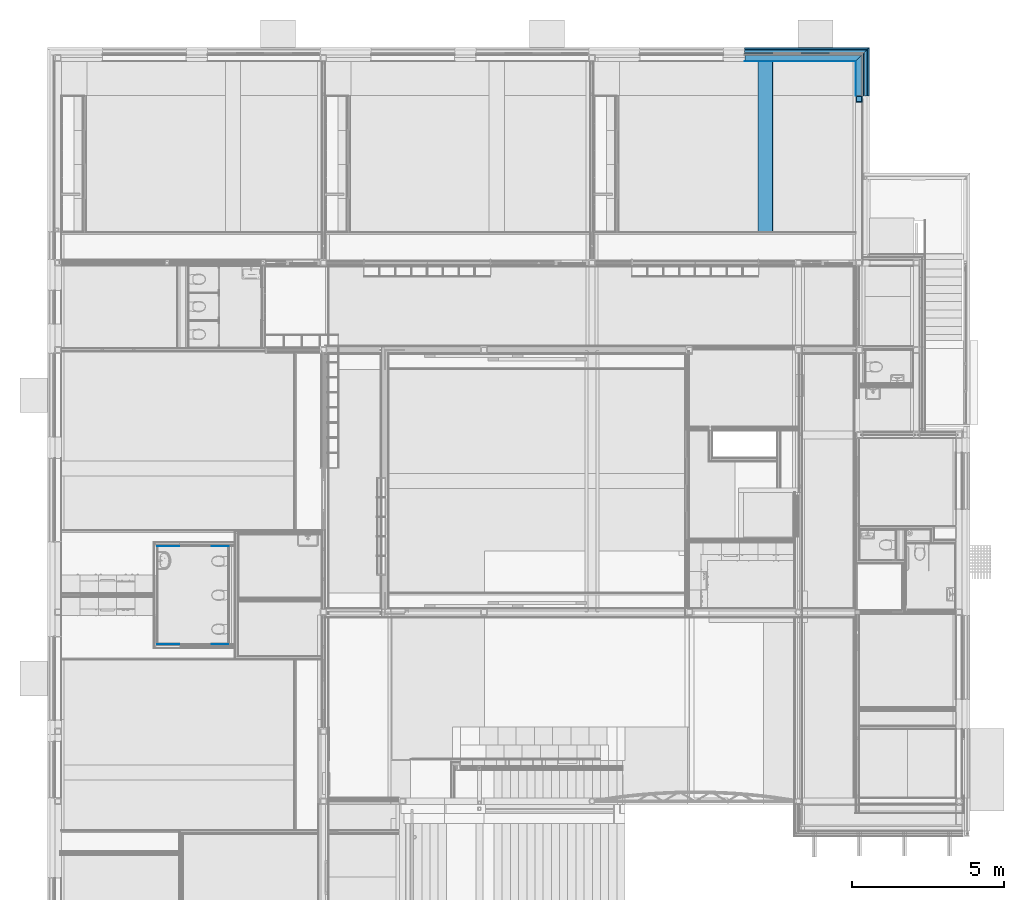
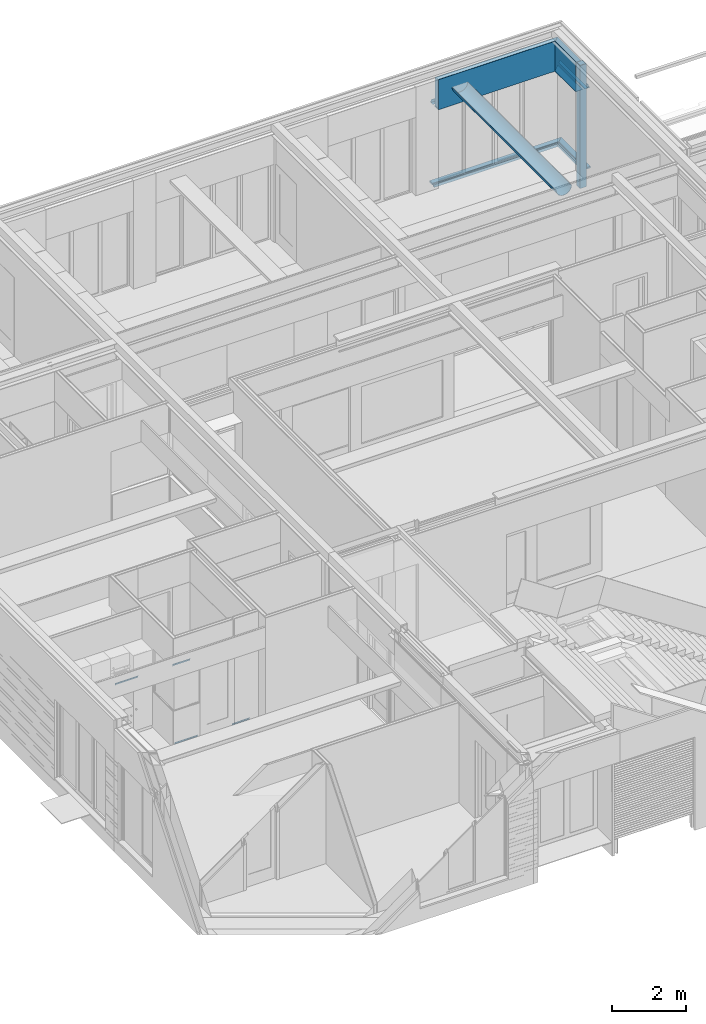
# One storey, part 98 of 165: 21 building element parts, 12 elements without a shape of their own.
"""IFC2X3 building model written with IfcOpenShell, lengths in millimetres."""

from ifc_helpers import new_model, entity, si_unit, converted_unit, derived_unit, money_unit, direction, frame, origin_with_axes, place, context, subcontext, project, spatial, faceted_brep, material, type_object, element, aggregate, save


model = new_model("IFC2X3")

# Units and contexts
model_context = context("Model", 3, precision=0.01, world=origin_with_axes(), true_north=direction((0.0, 1.0)))
body_context = subcontext(model_context, "Body", "Model", "MODEL_VIEW")
ifc_project = project(units=[si_unit("LENGTHUNIT", "METRE", prefix="MILLI"), si_unit("AREAUNIT", "SQUARE_METRE"), si_unit("VOLUMEUNIT", "CUBIC_METRE"), converted_unit("PLANEANGLEUNIT", "DEGREE", entity("IfcPlaneAngleMeasure", 0.0174532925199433), si_unit("PLANEANGLEUNIT", "RADIAN"), dimensions=[0, 0, 0, 0, 0, 0, 0]), money_unit("EUR"), converted_unit("TIMEUNIT", "Year", entity("IfcTimeMeasure", 31556926.0), si_unit("TIMEUNIT", "SECOND"), dimensions=[0, 0, 1, 0, 0, 0, 0]), si_unit("MASSUNIT", "GRAM", prefix="KILO"), si_unit("THERMODYNAMICTEMPERATUREUNIT", "DEGREE_CELSIUS"), si_unit("LUMINOUSINTENSITYUNIT", "LUMEN"), si_unit("ENERGYUNIT", "JOULE", prefix="MEGA"), derived_unit("THERMALCONDUCTANCEUNIT", [(si_unit("POWERUNIT", "WATT"), 1), (si_unit("LENGTHUNIT", "METRE"), -1), (si_unit("THERMODYNAMICTEMPERATUREUNIT", "KELVIN"), -1)]), derived_unit("SPECIFICHEATCAPACITYUNIT", [(si_unit("ENERGYUNIT", "JOULE"), 1), (si_unit("MASSUNIT", "GRAM", prefix="KILO"), -1), (si_unit("THERMODYNAMICTEMPERATUREUNIT", "KELVIN"), -1)]), derived_unit("MASSDENSITYUNIT", [(si_unit("MASSUNIT", "GRAM", prefix="KILO"), 1), (si_unit("VOLUMEUNIT", "CUBIC_METRE"), -1)])], contexts=[model_context])

# Site, building, storey
site_placement = place(None, origin_with_axes())
site = spatial("IfcSite", under=ifc_project, at=site_placement, Name="Site", CompositionType="ELEMENT")
building_placement = place(site_placement, origin_with_axes())
building = spatial("IfcBuilding", under=site, at=building_placement, Name="Naam gebouw", CompositionType="ELEMENT")
storey_placement = place(building_placement, origin_with_axes())
storey = spatial("IfcBuildingStorey", under=building, at=storey_placement, Name="Begane grond", CompositionType="ELEMENT", Elevation=0.0)

# Column, building element parts
column_type = type_object("IfcColumnType", Name="200X200X10 200 x 200", PredefinedType="COLUMN")
column_placement = place(storey_placement, frame((26500.00000195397, 27715.0, -480.0), z_axis=(0.0, 0.0, 1.0), x_axis=(1.0, 0.0, 0.0)))
column = element("IfcColumn", 1, at=column_placement, inside=storey, type_object=column_type, Name="28_Kolom-x", ObjectType="COLUMN")
ifc_material_1 = material(Name="Beton gewapend C")
building_element_part_1_placement = place(column_placement, origin_with_axes())
building_element_part_1 = element("IfcBuildingElementPart", 2, at=building_element_part_1_placement, material=ifc_material_1, Name="Beton gewapend C", context=body_context, shape_type="Brep", body=[
    faceted_brep([(-89.99999999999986, 89.99999999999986, 4063.0), (89.99999999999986, 89.99999999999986, 4063.0), (89.99999999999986, 89.99999999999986, 0.0), (-89.99999999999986, 89.99999999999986, 0.0), (89.99999999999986, -89.99999999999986, 4063.0), (-89.99999999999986, -89.99999999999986, 4063.0), (89.99999999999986, -89.99999999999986, 0.0), (-89.99999999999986, -89.99999999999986, 0.0)], [[[0, 1, 2, 3]], [[4, 1, 0, 5]], [[1, 4, 6, 2]], [[2, 6, 7, 3]], [[5, 0, 3, 7]], [[4, 5, 7, 6]]]),
    faceted_brep([(89.99999999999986, -89.99999999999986, 4074.999999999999), (89.99999999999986, 89.99999999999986, 4074.999999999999), (89.99999999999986, 89.99999999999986, 4079.999999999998), (89.99999999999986, -89.99999999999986, 4079.999999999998), (-89.99999999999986, 89.99999999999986, 4074.999999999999), (-89.99999999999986, -89.99999999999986, 4074.999999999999), (-89.99999999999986, 89.99999999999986, 4079.999999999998), (-89.99999999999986, -89.99999999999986, 4079.999999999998)], [[[0, 1, 2, 3]], [[4, 1, 0, 5]], [[1, 4, 6, 2]], [[2, 6, 7, 3]], [[5, 0, 3, 7]], [[4, 5, 7, 6]]]),
])
ifc_material_2 = material(Name="Metaal - Staal C")
building_element_part_2_placement = place(column_placement, origin_with_axes())
building_element_part_2 = element("IfcBuildingElementPart", 3, at=building_element_part_2_placement, material=ifc_material_2, Name="Metaal - Staal C", context=body_context, shape_type="Brep", body=[
    faceted_brep([(-100.0000000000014, -100.0000000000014, 0.0), (100.0000000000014, -100.0000000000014, 0.0), (100.0000000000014, -100.0000000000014, 4079.999999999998), (-100.0000000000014, -100.0000000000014, 4079.999999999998), (-100.0000000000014, 100.0000000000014, 0.0), (100.0000000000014, 100.0000000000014, 0.0), (-89.99999999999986, -89.99999999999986, 0.0), (89.99999999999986, -89.99999999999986, 0.0), (89.99999999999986, 89.99999999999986, 0.0), (-89.99999999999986, 89.99999999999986, 0.0), (100.0000000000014, 100.0000000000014, 4079.999999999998), (-100.0000000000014, 100.0000000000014, 4079.999999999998), (-89.99999999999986, -89.99999999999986, 4079.999999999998), (-89.99999999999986, 89.99999999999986, 4079.999999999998), (89.99999999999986, 89.99999999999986, 4079.999999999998), (89.99999999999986, -89.99999999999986, 4079.999999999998)], [[[0, 1, 2, 3]], [[0, 4, 5, 1], [6, 7, 8, 9]], [[1, 5, 10, 2]], [[3, 2, 10, 11], [12, 13, 14, 15]], [[4, 0, 3, 11]], [[5, 4, 11, 10]], [[7, 6, 12, 15]], [[8, 7, 15, 14]], [[9, 8, 14, 13]], [[6, 9, 13, 12]]]),
])
aggregate(column, [building_element_part_1, building_element_part_2])

# Beam, building element parts
beam_type_1 = type_object("IfcBeamType", Name="41 Latei/geveldrager 158 x 112", PredefinedType="BEAM")
beam_1_placement = place(storey_placement, frame((26780.00000000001, 29355.0, 2610.0), z_axis=(0.0, 0.0, 1.0), x_axis=(-1.0, 0.0, 0.0)))
beam_1 = element("IfcBeam", 4, at=beam_1_placement, inside=storey, type_object=beam_type_1, Name="_Regenwaterafvoer-x", ObjectType="BEAM")
building_element_part_3_placement = place(beam_1_placement, origin_with_axes())
building_element_part_3 = element("IfcBuildingElementPart", 5, at=building_element_part_3_placement, material=ifc_material_2, Name="Metaal - Staal C", context=body_context, shape_type="Brep", body=[
    faceted_brep([(-50.00000000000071, 1534.000000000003, 6.55651533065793e-07), (-50.00000000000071, 1534.000000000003, -3.000000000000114), (-50.00000000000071, -49.99999999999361, -3.000000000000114), (-50.00000000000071, -49.99999999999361, 6.55651533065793e-07), (-5.9603877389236e-08, 1534.000000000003, 6.55651533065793e-07), (-5.9603877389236e-08, 1534.000000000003, 99.3417707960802), (16.54654975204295, 1534.000000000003, 108.894926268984), (18.04655007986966, 1534.000000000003, 106.296849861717), (3.000000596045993, 1534.000000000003, 96.99999988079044), (3.000000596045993, 1534.000000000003, 6.55651533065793e-07), (3.000000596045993, 1534.000000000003, -3.000000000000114), (3.000000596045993, 3.000000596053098, -3.000000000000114), (3.000000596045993, 3.000000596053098, 6.55651533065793e-07), (3.000000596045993, 3.000000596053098, 96.99999988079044), (18.04655007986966, 18.04655007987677, 106.296849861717), (16.54654975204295, 16.54654975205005, 108.894926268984), (-5.9603877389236e-08, -5.96003246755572e-08, 99.3417707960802), (-5.9603877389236e-08, -5.96003246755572e-08, 6.55651533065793e-07)], [[[0, 1, 2, 3]], [[0, 4, 5, 6, 7, 8, 9, 10, 1]], [[1, 10, 11, 2]], [[3, 2, 11, 12, 13, 14, 15, 16, 17]], [[4, 0, 3, 17]], [[5, 4, 17, 16]], [[6, 5, 16, 15]], [[7, 6, 15, 14]], [[8, 7, 14, 13]], [[9, 8, 13, 12]], [[10, 9, 12, 11]]]),
])
building_element_part_4_placement = place(beam_1_placement, origin_with_axes())
building_element_part_4 = element("IfcBuildingElementPart", 6, at=building_element_part_4_placement, material=ifc_material_2, Name="Metaal - Staal C", context=body_context, shape_type="Brep", body=[
    faceted_brep([(3.000000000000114, 1534.000000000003, -3.000000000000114), (108.0000000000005, 1534.000000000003, -3.000000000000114), (108.0000000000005, 108.0000000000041, -3.000000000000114), (3.000000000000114, 3.000000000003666, -3.000000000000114), (3.000000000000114, 1534.000000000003, 0.0), (108.0000000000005, 1534.000000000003, 0.0), (108.0000000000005, 108.0000000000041, 0.0), (3.000000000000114, 3.000000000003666, 0.0)], [[[0, 1, 2, 3]], [[0, 4, 5, 1]], [[1, 5, 6, 2]], [[3, 2, 6, 7]], [[4, 0, 3, 7]], [[5, 4, 7, 6]]]),
])
aggregate(beam_1, [building_element_part_3, building_element_part_4])

beam_type_2 = type_object("IfcBeamType", Name="31 Betondorpel 250 x 90", PredefinedType="BEAM")
beam_2_placement = place(storey_placement, frame((26850.0, 29425.0, -100.0000000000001), z_axis=(0.0, 0.0, 1.0), x_axis=(-1.0, 0.0, 0.0)))
beam_2 = element("IfcBeam", 7, at=beam_2_placement, inside=storey, type_object=beam_type_2, Name="_Regenwaterafvoer-x", ObjectType="BEAM")
ifc_material_3 = material(Name="Isolatie - Kunststof hard")
building_element_part_5_placement = place(beam_2_placement, origin_with_axes())
building_element_part_5 = element("IfcBuildingElementPart", 8, at=building_element_part_5_placement, material=ifc_material_3, Name="Isolatie - Kunststof hard", context=body_context, shape_type="Brep", body=[
    faceted_brep([(199.9999999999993, 1604.000000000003, 0.0), (250.0, 1604.000000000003, 0.0), (250.0, 250.0, 0.0), (199.9999999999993, 199.9999999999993, 0.0), (199.9999999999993, 1604.000000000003, 30.04212815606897), (199.9999999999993, 1604.000000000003, 90.00000000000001), (250.0, 1604.000000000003, 90.00000000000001), (250.0, 250.0, 90.00000000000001), (199.9999999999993, 199.9999999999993, 90.00000000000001), (199.9999999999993, 199.9999999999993, 30.04212815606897)], [[[0, 1, 2, 3]], [[0, 4, 5, 6, 1]], [[1, 6, 7, 2]], [[3, 2, 7, 8, 9]], [[4, 0, 3, 9]], [[5, 4, 9, 8]], [[6, 5, 8, 7]]]),
])
ifc_material_4 = material(Name="Beton gewapend prefab")
building_element_part_6_placement = place(beam_2_placement, origin_with_axes())
building_element_part_6 = element("IfcBuildingElementPart", 9, at=building_element_part_6_placement, material=ifc_material_4, Name="Beton gewapend prefab", context=body_context, shape_type="Brep", body=[
    faceted_brep([(0.0, 1604.000000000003, 30.04212834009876), (169.9999999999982, 1604.000000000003, 30.04212834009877), (169.9999999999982, 169.9999999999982, 30.04212834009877), (0.0, 0.0, 30.04212834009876), (0.0, 1604.000000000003, 80.04212834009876), (169.9999999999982, 1604.000000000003, 90.04212834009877), (169.9999999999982, 1604.000000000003, 90.00000000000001), (169.9999999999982, 169.9999999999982, 90.00000000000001), (169.9999999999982, 169.9999999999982, 90.04212834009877), (0.0, 0.0, 80.04212834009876)], [[[0, 1, 2, 3]], [[0, 4, 5, 6, 1]], [[1, 6, 7, 2]], [[3, 2, 7, 8, 9]], [[4, 0, 3, 9]], [[5, 4, 9, 8]], [[6, 5, 8, 7]]]),
])
aggregate(beam_2, [building_element_part_5, building_element_part_6])

beam_3_placement = place(storey_placement, frame((22724.99942456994, 29355.0, 2610.0), z_axis=(0.0, 0.0, 1.0), x_axis=(0.0, -1.0, 0.0)))
beam_3 = element("IfcBeam", 10, at=beam_3_placement, inside=storey, type_object=beam_type_1, Name="_Regenwaterafvoer-x", ObjectType="BEAM")
building_element_part_7_placement = place(beam_3_placement, origin_with_axes())
building_element_part_7 = element("IfcBuildingElementPart", 11, at=building_element_part_7_placement, material=ifc_material_2, Name="Metaal - Staal C", context=body_context, shape_type="Brep", body=[
    faceted_brep([(-50.00000000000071, 4105.000575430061, 6.55651533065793e-07), (-50.00000000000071, 4105.000575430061, -3.000000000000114), (-50.00000000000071, 0.0, -3.000000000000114), (-50.00000000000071, 0.0, 6.55651533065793e-07), (-5.9603877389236e-08, 4055.000575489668, 6.55651533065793e-07), (-5.9603877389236e-08, 4055.000575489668, 99.3417707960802), (16.54654975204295, 4038.454025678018, 108.894926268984), (18.04655007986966, 4036.954025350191, 106.296849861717), (3.000000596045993, 4052.000574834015, 96.99999988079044), (3.000000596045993, 4052.000574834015, 6.55651533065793e-07), (3.000000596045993, 4052.000574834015, -3.000000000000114), (3.000000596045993, 0.0, -3.000000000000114), (3.000000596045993, 0.0, 6.55651533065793e-07), (3.000000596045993, 0.0, 96.99999988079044), (18.04655007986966, 0.0, 106.296849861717), (16.54654975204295, 0.0, 108.894926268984), (-5.9603877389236e-08, 0.0, 99.3417707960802), (-5.9603877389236e-08, 0.0, 6.55651533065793e-07)], [[[0, 1, 2, 3]], [[0, 4, 5, 6, 7, 8, 9, 10, 1]], [[1, 10, 11, 2]], [[3, 2, 11, 12, 13, 14, 15, 16, 17]], [[4, 0, 3, 17]], [[5, 4, 17, 16]], [[6, 5, 16, 15]], [[7, 6, 15, 14]], [[8, 7, 14, 13]], [[9, 8, 13, 12]], [[10, 9, 12, 11]]]),
])
building_element_part_8_placement = place(beam_3_placement, origin_with_axes())
building_element_part_8 = element("IfcBuildingElementPart", 12, at=building_element_part_8_placement, material=ifc_material_2, Name="Metaal - Staal C", context=body_context, shape_type="Brep", body=[
    faceted_brep([(3.000000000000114, 4052.000575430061, -3.000000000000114), (108.0000000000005, 3947.000575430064, -3.000000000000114), (108.0000000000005, 0.0, -3.000000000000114), (3.000000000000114, 0.0, -3.000000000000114), (3.000000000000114, 4052.000575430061, 0.0), (108.0000000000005, 3947.000575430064, 0.0), (108.0000000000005, 0.0, 0.0), (3.000000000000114, 0.0, 0.0)], [[[0, 1, 2, 3]], [[0, 4, 5, 1]], [[1, 5, 6, 2]], [[3, 2, 6, 7]], [[4, 0, 3, 7]], [[5, 4, 7, 6]]]),
])
aggregate(beam_3, [building_element_part_7, building_element_part_8])

beam_4_placement = place(storey_placement, frame((22724.99942456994, 29425.0, -100.0000000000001), z_axis=(0.0, 0.0, 1.0), x_axis=(0.0, -1.0, 0.0)))
beam_4 = element("IfcBeam", 13, at=beam_4_placement, inside=storey, type_object=beam_type_2, Name="_Regenwaterafvoer-x", ObjectType="BEAM")
building_element_part_9_placement = place(beam_4_placement, origin_with_axes())
building_element_part_9 = element("IfcBuildingElementPart", 14, at=building_element_part_9_placement, material=ifc_material_3, Name="Isolatie - Kunststof hard", context=body_context, shape_type="Brep", body=[
    faceted_brep([(199.9999999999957, 3925.000575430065, 0.0), (249.9999999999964, 3875.000575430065, 0.0), (250.0, 0.0, 0.0), (199.9999999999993, 0.0, 0.0), (199.9999999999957, 3925.000575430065, 30.04212815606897), (199.9999999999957, 3925.000575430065, 90.00000000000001), (249.9999999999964, 3875.000575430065, 90.00000000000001), (250.0, 0.0, 90.00000000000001), (199.9999999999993, 0.0, 90.00000000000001), (199.9999999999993, 0.0, 30.04212815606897)], [[[0, 1, 2, 3]], [[0, 4, 5, 6, 1]], [[1, 6, 7, 2]], [[3, 2, 7, 8, 9]], [[4, 0, 3, 9]], [[5, 4, 9, 8]], [[6, 5, 8, 7]]]),
])
building_element_part_10_placement = place(beam_4_placement, origin_with_axes())
building_element_part_10 = element("IfcBuildingElementPart", 15, at=building_element_part_10_placement, material=ifc_material_4, Name="Beton gewapend prefab", context=body_context, shape_type="Brep", body=[
    faceted_brep([(0.0, 4125.000575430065, 30.04212834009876), (169.9999999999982, 3955.000575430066, 30.04212834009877), (170.0000000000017, 0.0, 30.04212834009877), (0.0, 0.0, 30.04212834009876), (0.0, 4125.000575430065, 80.04212834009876), (169.9999999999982, 3955.000575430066, 90.04212834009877), (169.9999999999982, 3955.000575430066, 90.00000000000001), (170.0000000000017, 0.0, 90.00000000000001), (170.0000000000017, 0.0, 90.04212834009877), (0.0, 0.0, 80.04212834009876)], [[[0, 1, 2, 3]], [[0, 4, 5, 6, 1]], [[1, 6, 7, 2]], [[3, 2, 7, 8, 9]], [[4, 0, 3, 9]], [[5, 4, 9, 8]], [[6, 5, 8, 7]]]),
])
aggregate(beam_4, [building_element_part_9, building_element_part_10])

# Proxy, building element part
building_element_proxy_type_1 = type_object("IfcBuildingElementProxyType", Name="42 Tegelwerk 2600+ 12 x 2600", PredefinedType="NOTDEFINED")
proxy_1_placement = place(storey_placement, frame((5174.99959469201, 12970.00039331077, 0.0), z_axis=(0.0, 0.0, 1.0), x_axis=(0.9999999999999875, -1.58271783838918e-07, 0.0)))
proxy_1 = element("IfcBuildingElementProxy", 16, at=proxy_1_placement, inside=storey, type_object=building_element_proxy_type_1, Name="_Wand-x")
ifc_material_5 = material(Name="48 vloeivloer Bolidt")
building_element_part_11_placement = place(proxy_1_placement, origin_with_axes())
building_element_part_11 = element("IfcBuildingElementPart", 17, at=building_element_part_11_placement, material=ifc_material_5, Name="48 vloeivloer Bolidt", context=body_context, shape_type="Brep", body=[
    faceted_brep([(549.9840933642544, 14.99999850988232, 50.00000596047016), (549.9840933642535, 19.99998360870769, 50.00000596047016), (0.0, 19.99998360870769, 50.00000596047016), (0.0, 14.99999850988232, 50.00000596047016), (549.9840933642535, 19.99998360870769, 0.0), (549.9840933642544, 14.99999850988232, 0.0), (0.0, 19.99998360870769, 0.0), (0.0, 14.99999850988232, 0.0)], [[[0, 1, 2, 3]], [[4, 1, 0, 5]], [[1, 4, 6, 2]], [[7, 3, 2, 6]], [[5, 0, 3, 7]], [[4, 5, 7, 6]]]),
])
aggregate(proxy_1, [building_element_part_11])

building_element_proxy_type_2 = type_object("IfcBuildingElementProxyType", Name="42 Tegelwerk 1200+ 12 x 1200", PredefinedType="NOTDEFINED")
proxy_2_placement = place(storey_placement, frame((4094.999594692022, 12970.0005642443, 0.0), z_axis=(0.0, 0.0, 1.0), x_axis=(-0.9999999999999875, 1.582717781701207e-07, 0.0)))
proxy_2 = element("IfcBuildingElementProxy", 18, at=proxy_2_placement, inside=storey, type_object=building_element_proxy_type_2, Name="_Wand-x")
building_element_part_12_placement = place(proxy_2_placement, origin_with_axes())
building_element_part_12 = element("IfcBuildingElementPart", 19, at=building_element_part_12_placement, material=ifc_material_5, Name="48 vloeivloer Bolidt", context=body_context, shape_type="Brep", body=[
    faceted_brep([(720.0000925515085, -19.999993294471, 0.0), (720.0000925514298, -20.00001117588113, 50.00000000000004), (0.0, -20.00001117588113, 50.00000000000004), (0.0, -19.999993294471, 0.0), (720.0001145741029, -14.99999329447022, 0.0), (720.0001145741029, -14.99999329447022, 50.00000000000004), (0.0, -14.99999329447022, 50.00000000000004), (0.0, -14.99999329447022, 0.0)], [[[0, 1, 2, 3]], [[1, 0, 4, 5]], [[1, 5, 6, 2]], [[6, 7, 3, 2]], [[4, 0, 3, 7]], [[5, 4, 7, 6]]]),
])
aggregate(proxy_2, [building_element_part_12])

proxy_3_placement = place(storey_placement, frame((3394.984815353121, 9770.000153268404, 0.0), z_axis=(0.0, 0.0, 1.0), x_axis=(1.0, 0.0, 0.0)))
proxy_3 = element("IfcBuildingElementProxy", 20, at=proxy_3_placement, inside=storey, type_object=building_element_proxy_type_2, Name="_Wand-x")
building_element_part_13_placement = place(proxy_3_placement, origin_with_axes())
building_element_part_13 = element("IfcBuildingElementPart", 21, at=building_element_part_13_placement, material=ifc_material_5, Name="48 vloeivloer Bolidt", context=body_context, shape_type="Brep", body=[
    faceted_brep([(-15.00006173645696, -14.9999932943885, 0.0), (-15.00006173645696, -14.99999329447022, 49.99999999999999), (699.9983635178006, -14.99999329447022, 50.00000000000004), (699.9983635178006, -14.99999329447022, 0.0), (-15.00008455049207, -20.00001117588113, 49.99999999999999), (-15.00008455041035, -19.99999329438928, 0.0), (699.9983635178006, -20.00001117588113, 50.00000000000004), (699.9983635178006, -19.999993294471, 0.0)], [[[0, 1, 2, 3]], [[4, 1, 0, 5]], [[1, 4, 6, 2]], [[6, 7, 3, 2]], [[5, 0, 3, 7]], [[4, 5, 7, 6]]]),
])
aggregate(proxy_3, [building_element_part_13])

proxy_4_placement = place(storey_placement, frame((5704.983190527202, 9769.999944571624, 0.0), z_axis=(0.0, 0.0, 1.0), x_axis=(-1.0, 0.0, 0.0)))
proxy_4 = element("IfcBuildingElementProxy", 22, at=proxy_4_placement, inside=storey, type_object=building_element_proxy_type_1, Name="_Wand-x")
building_element_part_14_placement = place(proxy_4_placement, origin_with_axes())
building_element_part_14 = element("IfcBuildingElementPart", 23, at=building_element_part_14_placement, material=ifc_material_5, Name="48 vloeivloer Bolidt", context=body_context, shape_type="Brep", body=[
    faceted_brep([(-14.99999534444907, 19.99998360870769, 50.00000596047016), (-14.99999613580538, 14.99999850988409, 50.00000596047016), (530.000011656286, 14.99999850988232, 50.00000596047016), (530.000011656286, 19.99998360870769, 50.00000596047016), (-14.99999613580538, 14.99999850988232, 0.0), (-14.99999534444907, 19.99998360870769, 0.0), (530.000011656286, 14.99999850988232, 0.0), (530.000011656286, 19.99998360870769, 0.0)], [[[0, 1, 2, 3]], [[4, 1, 0, 5]], [[1, 4, 6, 2]], [[7, 3, 2, 6]], [[5, 0, 3, 7]], [[4, 5, 7, 6]]]),
])
aggregate(proxy_4, [building_element_part_14])

# Beam, building element part
beam_type_3 = type_object("IfcBeamType", Name="Luchtzakken 500mm 500 x 265", PredefinedType="BEAM")
beam_5_placement = place(storey_placement, frame((23412.49942456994, 28961.0, 3200.0), z_axis=(0.0, 0.0, 1.0), x_axis=(-1.0, 0.0, 0.0)))
beam_5 = element("IfcBeam", 24, at=beam_5_placement, inside=storey, type_object=beam_type_3, Name="_Regenwaterafvoer-x", ObjectType="BEAM")
ifc_material_6 = material(Name="ALG - ALGEMEEN")
building_element_part_15_placement = place(beam_5_placement, origin_with_axes())
building_element_part_15 = element("IfcBuildingElementPart", 25, at=building_element_part_15_placement, material=ifc_material_6, Name="ALG - ALGEMEEN", context=body_context, shape_type="Brep", body=[
    faceted_brep([(-250.0, 5636.000152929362, 0.0), (-246.2019382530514, 5636.000152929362, -43.41204441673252), (-246.2019382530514, 0.0, -43.41204441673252), (-250.0, 0.0, 0.0), (-240.000000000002, 5636.000152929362, 0.0), (-236.3538607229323, 5636.000152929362, -41.67556264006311), (-225.5262289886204, 5636.000152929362, -82.08483439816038), (-207.8460969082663, 5636.000152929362, -120.0000000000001), (-183.8506663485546, 5636.000152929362, -154.2690263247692), (-154.2690263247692, 5636.000152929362, -183.8506663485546), (-120.000000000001, 5636.000152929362, -207.8460969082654), (-82.0848343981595, 5636.000152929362, -225.5262289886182), (-41.67556264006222, 5636.000152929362, -236.3538607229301), (0.0, 5636.000152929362, -240.0000000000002), (41.67556264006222, 5636.000152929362, -236.3538607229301), (82.0848343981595, 5636.000152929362, -225.5262289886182), (120.000000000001, 5636.000152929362, -207.8460969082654), (154.2690263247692, 5636.000152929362, -183.8506663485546), (183.8506663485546, 5636.000152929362, -154.2690263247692), (207.8460969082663, 5636.000152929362, -120.0000000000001), (225.5262289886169, 5636.000152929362, -82.08483439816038), (236.3538607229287, 5636.000152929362, -41.67556264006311), (239.9999999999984, 5636.000152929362, 0.0), (250.0, 5636.000152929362, 0.0), (246.2019382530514, 5636.000152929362, -43.41204441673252), (234.9231551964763, 5636.000152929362, -85.50503583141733), (216.5063509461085, 5636.000152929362, -125.0), (191.5111107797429, 5636.000152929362, -160.6969024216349), (160.696902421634, 5636.000152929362, -191.5111107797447), (125.0, 5636.000152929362, -216.5063509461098), (85.50503583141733, 5636.000152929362, -234.9231551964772), (43.41204441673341, 5636.000152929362, -246.2019382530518), (0.0, 5636.000152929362, -250.0), (-43.41204441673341, 5636.000152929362, -246.2019382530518), (-85.50503583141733, 5636.000152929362, -234.9231551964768), (-125.0, 5636.000152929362, -216.5063509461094), (-160.696902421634, 5636.000152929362, -191.5111107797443), (-191.5111107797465, 5636.000152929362, -160.6969024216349), (-216.506350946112, 5636.000152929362, -125.0), (-234.9231551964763, 5636.000152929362, -85.50503583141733), (-234.9231551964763, 0.0, -85.50503583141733), (-216.5063509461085, 0.0, -125.0), (-191.5111107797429, 0.0, -160.6969024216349), (-160.696902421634, 0.0, -191.5111107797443), (-125.0, 0.0, -216.5063509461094), (-85.50503583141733, 0.0, -234.9231551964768), (-43.41204441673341, 0.0, -246.2019382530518), (0.0, 0.0, -250.0), (43.41204441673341, 0.0, -246.2019382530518), (85.50503583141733, 0.0, -234.9231551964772), (125.0, 0.0, -216.5063509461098), (160.696902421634, 0.0, -191.5111107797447), (191.5111107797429, 0.0, -160.6969024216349), (216.5063509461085, 0.0, -125.0), (234.9231551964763, 0.0, -85.50503583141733), (246.2019382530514, 0.0, -43.41204441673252), (250.0, 0.0, 0.0), (239.9999999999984, 0.0, 0.0), (236.3538607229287, 0.0, -41.67556264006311), (225.5262289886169, 0.0, -82.08483439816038), (207.8460969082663, 0.0, -120.0000000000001), (183.8506663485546, 0.0, -154.2690263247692), (154.2690263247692, 0.0, -183.8506663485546), (120.000000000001, 0.0, -207.8460969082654), (82.0848343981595, 0.0, -225.5262289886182), (41.67556264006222, 0.0, -236.3538607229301), (0.0, 0.0, -240.0000000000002), (-41.67556264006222, 0.0, -236.3538607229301), (-82.0848343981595, 0.0, -225.5262289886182), (-120.000000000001, 0.0, -207.8460969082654), (-154.2690263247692, 0.0, -183.8506663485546), (-183.8506663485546, 0.0, -154.2690263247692), (-207.8460969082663, 0.0, -120.0000000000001), (-225.5262289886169, 0.0, -82.08483439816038), (-236.3538607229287, 0.0, -41.67556264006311), (-239.9999999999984, 0.0, 0.0)], [[[0, 1, 2, 3]], [[0, 4, 5, 6, 7, 8, 9, 10, 11, 12, 13, 14, 15, 16, 17, 18, 19, 20, 21, 22, 23, 24, 25, 26, 27, 28, 29, 30, 31, 32, 33, 34, 35, 36, 37, 38, 39, 1]], [[1, 39, 40, 2]], [[3, 2, 40, 41, 42, 43, 44, 45, 46, 47, 48, 49, 50, 51, 52, 53, 54, 55, 56, 57, 58, 59, 60, 61, 62, 63, 64, 65, 66, 67, 68, 69, 70, 71, 72, 73, 74, 75]], [[4, 0, 3, 75]], [[5, 4, 75, 74]], [[6, 5, 74, 73]], [[7, 6, 73, 72]], [[8, 7, 72, 71]], [[9, 8, 71, 70]], [[10, 9, 70, 69]], [[11, 10, 69, 68]], [[12, 11, 68, 67]], [[13, 12, 67, 66]], [[14, 13, 66, 65]], [[15, 14, 65, 64]], [[16, 15, 64, 63]], [[17, 16, 63, 62]], [[18, 17, 62, 61]], [[19, 18, 61, 60]], [[20, 19, 60, 59]], [[21, 20, 59, 58]], [[22, 21, 58, 57]], [[23, 22, 57, 56]], [[24, 23, 56, 55]], [[25, 24, 55, 54]], [[26, 25, 54, 53]], [[27, 26, 53, 52]], [[28, 27, 52, 51]], [[29, 28, 51, 50]], [[30, 29, 50, 49]], [[31, 30, 49, 48]], [[32, 31, 48, 47]], [[33, 32, 47, 46]], [[34, 33, 46, 45]], [[35, 34, 45, 44]], [[36, 35, 44, 43]], [[37, 36, 43, 42]], [[38, 37, 42, 41]], [[39, 38, 41, 40]]]),
])
aggregate(beam_5, [building_element_part_15])

# Beam, building element parts
beam_type_4 = type_object("IfcBeamType", Name="31 HSB boven kozijnen 214 x 1000", PredefinedType="BEAM")
beam_6_placement = place(storey_placement, frame((22734.99942456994, 28961.0, 2600.000000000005), z_axis=(0.0, 0.0, 1.0), x_axis=(0.0, -1.0, 0.0)))
beam_6 = element("IfcBeam", 26, at=beam_6_placement, inside=storey, type_object=beam_type_4, Name="28_Balk-x", ObjectType="BEAM")
ifc_material_7 = material(Name="Gipsplaat")
building_element_part_16_placement = place(beam_6_placement, origin_with_axes())
building_element_part_16 = element("IfcBuildingElementPart", 27, at=building_element_part_16_placement, material=ifc_material_7, Name="Gipsplaat", context=body_context, shape_type="Brep", body=[
    faceted_brep([(-11.99999661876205, 3663.000572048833, 0.0), (9.341707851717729e-06, 3651.000566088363, 0.0), (9.341711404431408e-06, 0.0, 0.0), (-11.99999661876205, 0.0, 0.0), (-11.99999661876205, 3663.000572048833, 999.9999999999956), (9.341707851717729e-06, 3651.000566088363, 999.9999999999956), (9.341707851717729e-06, 0.0, 999.9999999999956), (-11.99999661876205, 0.0, 999.9999999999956)], [[[0, 1, 2, 3]], [[0, 4, 5, 1]], [[1, 5, 6, 2]], [[3, 2, 6, 7]], [[4, 0, 3, 7]], [[5, 4, 7, 6]]]),
])
building_element_part_17_placement = place(beam_6_placement, origin_with_axes())
building_element_part_17 = element("IfcBuildingElementPart", 28, at=building_element_part_17_placement, material=ifc_material_7, Name="Gipsplaat", context=body_context, shape_type="Brep", body=[
    faceted_brep([(-214.0000025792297, 3865.000578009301, 12.00000596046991), (-214.0000025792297, 3865.000578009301, 0.0), (-214.0000025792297, 0.0, 0.0), (-214.0000025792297, 0.0, 12.00000596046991), (-11.99999661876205, 3663.000572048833, 12.00000596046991), (-11.99999661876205, 3663.000572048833, 0.0), (-11.99999661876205, 0.0, 0.0), (-11.99999661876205, 0.0, 12.00000596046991)], [[[0, 1, 2, 3]], [[0, 4, 5, 1]], [[1, 5, 6, 2]], [[3, 2, 6, 7]], [[4, 0, 3, 7]], [[5, 4, 7, 6]]]),
])
ifc_material_8 = material(Name="ALG - ISOLATIE")
building_element_part_18_placement = place(beam_6_placement, origin_with_axes())
building_element_part_18 = element("IfcBuildingElementPart", 29, at=building_element_part_18_placement, material=ifc_material_8, Name="ALG - ISOLATIE", context=body_context, shape_type="Brep", body=[
    faceted_brep([(-12.00000000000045, 3663.000575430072, 49.99999999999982), (-12.00000000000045, 3663.000575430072, 961.9999999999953), (-12.00000000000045, 0.0, 961.9999999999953), (-12.00000000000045, 0.0, 49.99999999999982), (-196.0000000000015, 3847.000575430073, 49.99999999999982), (-196.0000000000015, 3847.000575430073, 961.9999999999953), (-196.0000000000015, 0.0, 961.9999999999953), (-195.999999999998, 0.0, 49.99999999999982)], [[[0, 1, 2, 3]], [[0, 4, 5, 1]], [[1, 5, 6, 2]], [[3, 2, 6, 7]], [[4, 0, 3, 7]], [[5, 4, 7, 6]]]),
])
aggregate(beam_6, [building_element_part_16, building_element_part_17, building_element_part_18])

beam_7_placement = place(storey_placement, frame((26386.00000000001, 28961.0, 2600.000000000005), z_axis=(0.0, 0.0, 1.0), x_axis=(-1.0, 0.0, 0.0)))
beam_7 = element("IfcBeam", 30, at=beam_7_placement, inside=storey, type_object=beam_type_4, Name="28_Balk-x", ObjectType="BEAM")
building_element_part_19_placement = place(beam_7_placement, origin_with_axes())
building_element_part_19 = element("IfcBuildingElementPart", 31, at=building_element_part_19_placement, material=ifc_material_7, Name="Gipsplaat", context=body_context, shape_type="Brep", body=[
    faceted_brep([(-11.99999661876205, 1130.000000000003, 0.0), (9.341707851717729e-06, 1130.000000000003, 0.0), (9.341711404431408e-06, 9.341718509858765e-06, 0.0), (-11.99999661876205, -11.9999966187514, 0.0), (-11.99999661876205, 1130.000000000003, 999.9999999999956), (9.341707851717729e-06, 1130.000000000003, 999.9999999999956), (9.341707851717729e-06, 9.341718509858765e-06, 999.9999999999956), (-11.99999661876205, -11.9999966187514, 999.9999999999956)], [[[0, 1, 2, 3]], [[0, 4, 5, 1]], [[1, 5, 6, 2]], [[3, 2, 6, 7]], [[4, 0, 3, 7]], [[5, 4, 7, 6]]]),
])
building_element_part_20_placement = place(beam_7_placement, origin_with_axes())
building_element_part_20 = element("IfcBuildingElementPart", 32, at=building_element_part_20_placement, material=ifc_material_7, Name="Gipsplaat", context=body_context, shape_type="Brep", body=[
    faceted_brep([(-214.0000025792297, 1130.000000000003, 12.00000596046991), (-214.0000025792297, 1130.000000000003, 0.0), (-214.0000025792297, -214.000002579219, 0.0), (-214.0000025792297, -214.000002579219, 12.00000596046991), (-11.99999661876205, 1130.000000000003, 12.00000596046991), (-11.99999661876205, 1130.000000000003, 0.0), (-11.99999661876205, -11.9999966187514, 0.0), (-11.99999661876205, -11.9999966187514, 12.00000596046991)], [[[0, 1, 2, 3]], [[0, 4, 5, 1]], [[1, 5, 6, 2]], [[3, 2, 6, 7]], [[4, 0, 3, 7]], [[5, 4, 7, 6]]]),
])
building_element_part_21_placement = place(beam_7_placement, origin_with_axes())
building_element_part_21 = element("IfcBuildingElementPart", 33, at=building_element_part_21_placement, material=ifc_material_8, Name="ALG - ISOLATIE", context=body_context, shape_type="Brep", body=[
    faceted_brep([(-12.00000000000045, 1130.000000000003, 49.99999999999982), (-12.00000000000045, 1130.000000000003, 961.9999999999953), (-12.00000000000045, -11.9999999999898, 961.9999999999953), (-12.00000000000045, -11.9999999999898, 49.99999999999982), (-196.0000000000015, 1130.000000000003, 49.99999999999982), (-196.0000000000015, 1130.000000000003, 961.9999999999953), (-195.999999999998, -195.9999999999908, 961.9999999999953), (-195.999999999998, -195.9999999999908, 49.99999999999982)], [[[0, 1, 2, 3]], [[0, 4, 5, 1]], [[1, 5, 6, 2]], [[3, 2, 6, 7]], [[4, 0, 3, 7]], [[5, 4, 7, 6]]]),
])
aggregate(beam_7, [building_element_part_19, building_element_part_20, building_element_part_21])

save(model, "model.ifc")
